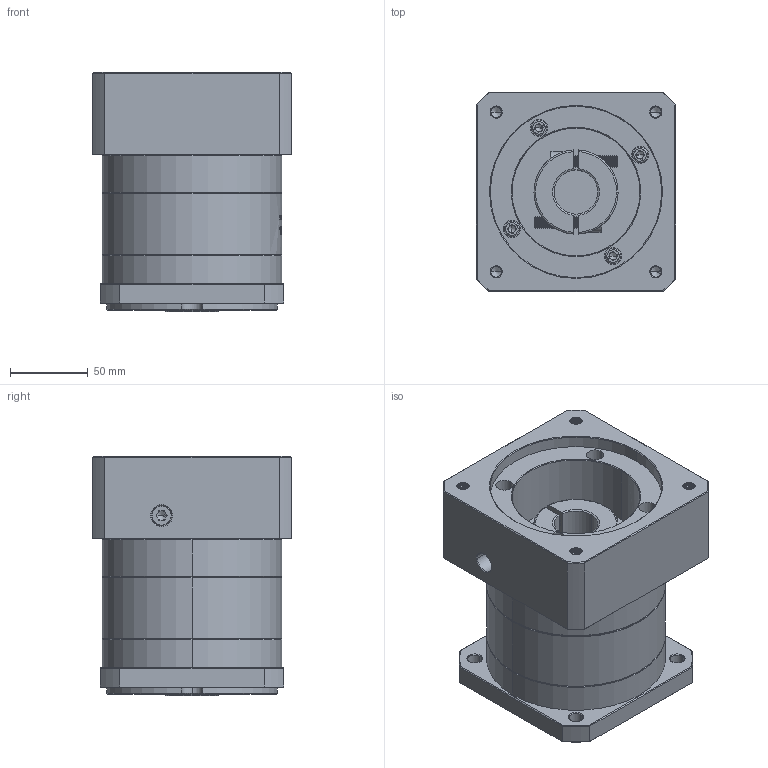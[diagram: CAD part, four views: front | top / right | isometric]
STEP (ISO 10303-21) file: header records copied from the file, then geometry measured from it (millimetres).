
FILE_DESCRIPTION (( 'STEP AP214' ), '1' );
FILE_NAME ('ZF120A-K25-L1-28-110-145-M8.step', '2023-03-07T09:37:24', ( '' ), ( '' ), 'SwSTEP 2.0', 'SolidWorks 2016', '' );
FILE_SCHEMA (( 'AUTOMOTIVE_DESIGN' ));
Length unit declared in the file: millimetre
Products named in the file (1): ZF120A-K25-L1-28-110-145-M8
Bounding box: 128 x 128 x 153.5 mm (x, y, z)
Volume: 1612614.9 mm3; surface area: 177778 mm2
Topology: 6 solids, 6 shells, 1883 faces, 4918 edges, 3132 vertices
Faces by surface type: plane 849, cylinder 387, cone 315, bspline 312, torus 20
Entity records: 100869 total; most frequent: CARTESIAN_POINT 37458, ORIENTED_EDGE 9780, DIRECTION 7610, EDGE_CURVE 4890, VERTEX_POINT 3132, LINE 2686, VECTOR 2686, AXIS2_PLACEMENT_3D 2462
